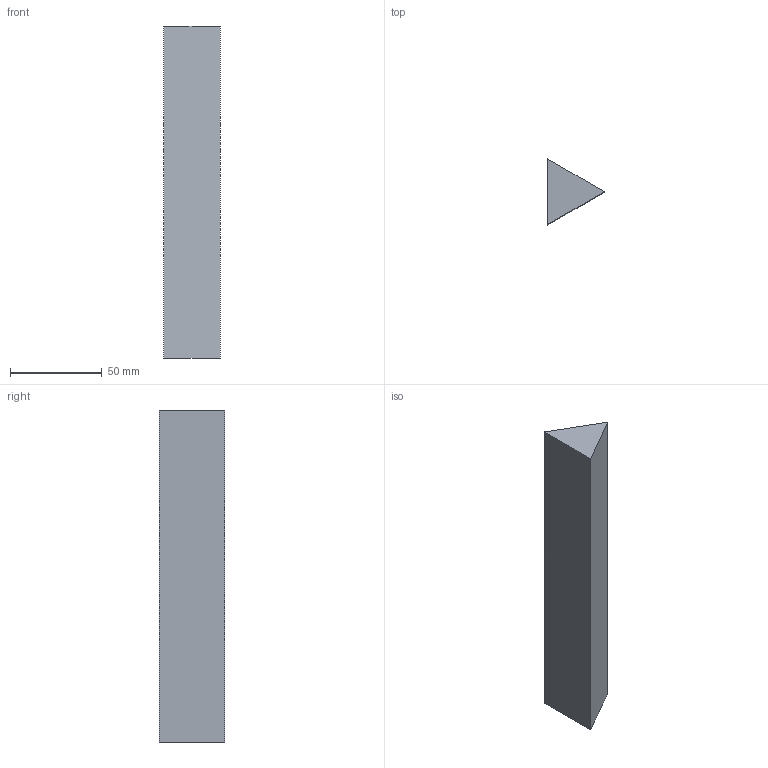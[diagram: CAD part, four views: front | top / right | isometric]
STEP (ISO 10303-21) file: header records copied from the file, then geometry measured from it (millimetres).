
FILE_DESCRIPTION(('Mechanical CAD reference from nasji.com'),'2;1');
FILE_NAME('NASJI.step','',(''),(''),'','NASJI distribution','');
FILE_SCHEMA(('AUTOMOTIVE_DESIGN { 1 0 10303 214 1 1 1 1 }'));
Length unit declared in the file: millimetre
Products named in the file (1): Open CASCADE STEP translator 7.8 218
Bounding box: 30.95 x 35.73 x 180.7 mm (x, y, z)
Volume: 99903 mm3; surface area: 20476.2 mm2
Topology: 1 solids, 1 shells, 5 faces, 9 edges, 6 vertices
Faces by surface type: plane 5
Entity records: 250 total; most frequent: CARTESIAN_POINT 39, DIRECTION 39, LINE 27, VECTOR 27, ORIENTED_EDGE 18, PCURVE 18, DEFINITIONAL_REPRESENTATION 18, EDGE_CURVE 9
